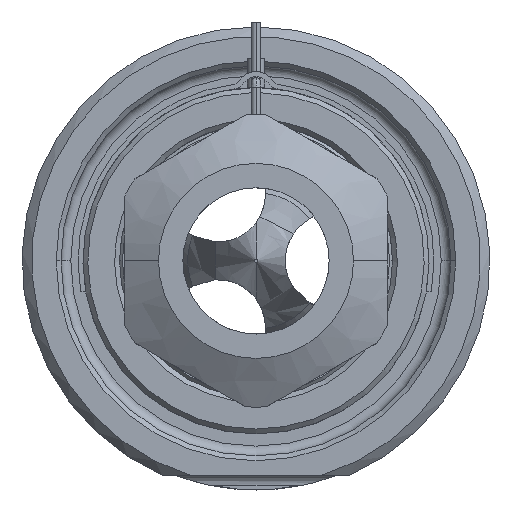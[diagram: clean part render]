
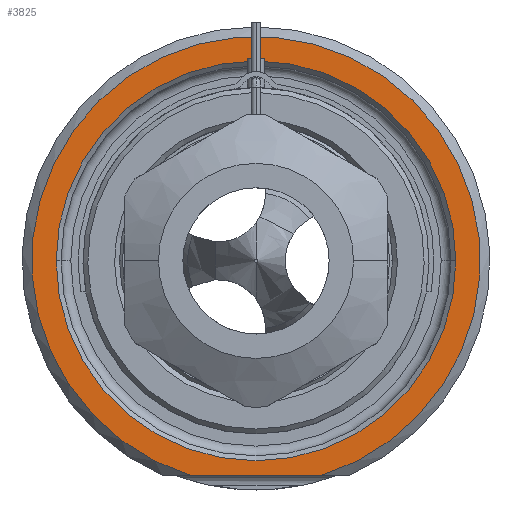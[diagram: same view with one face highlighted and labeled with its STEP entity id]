
A CAD part, front view. The second image highlights one B-rep face of the part: STEP entity #3825.
In plain terms, the highlighted planar face has unit normal (0, -1, 0).
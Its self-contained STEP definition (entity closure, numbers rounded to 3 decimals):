
#1=DIRECTION('',(1.,0.,0.));
#2=VECTOR('',#1,13.416);
#3=CARTESIAN_POINT('',(-6.708,0.,-22.));
#4=LINE('',#3,#2);
#5=CARTESIAN_POINT('',(0.,0.,0.));
#6=DIRECTION('',(0.,1.,0.));
#7=DIRECTION('',(-1.,0.,0.));
#8=AXIS2_PLACEMENT_3D('',#5,#6,#7);
#10=CARTESIAN_POINT('',(0.,0.,0.));
#11=DIRECTION('',(0.,1.,0.));
#12=DIRECTION('',(1.,0.,0.));
#13=AXIS2_PLACEMENT_3D('',#10,#11,#12);
#121=CARTESIAN_POINT('',(0.,0.,0.));
#122=DIRECTION('',(0.,-1.,0.));
#123=DIRECTION('',(0.292,0.,-0.957));
#124=AXIS2_PLACEMENT_3D('',#121,#122,#123);
#3208=CARTESIAN_POINT('',(-20.5,0.,0.));
#3209=CARTESIAN_POINT('',(20.5,0.,0.));
#3210=VERTEX_POINT('',#3208);
#3211=VERTEX_POINT('',#3209);
#3248=CARTESIAN_POINT('',(-6.708,0.,-22.));
#3249=CARTESIAN_POINT('',(6.708,0.,-22.));
#3250=VERTEX_POINT('',#3248);
#3251=VERTEX_POINT('',#3249);
#3808=CARTESIAN_POINT('',(0.,0.,0.));
#3809=DIRECTION('',(0.,-1.,0.));
#3810=DIRECTION('',(1.,0.,0.));
#3811=AXIS2_PLACEMENT_3D('',#3808,#3809,#3810);
#3812=PLANE('',#3811);
#3814=ORIENTED_EDGE('',*,*,#3813,.F.);
#3816=ORIENTED_EDGE('',*,*,#3815,.F.);
#3817=EDGE_LOOP('',(#3814,#3816));
#3818=FACE_OUTER_BOUND('',#3817,.F.);
#3820=ORIENTED_EDGE('',*,*,#3819,.F.);
#3822=ORIENTED_EDGE('',*,*,#3821,.F.);
#3823=EDGE_LOOP('',(#3820,#3822));
#3824=FACE_BOUND('',#3823,.F.);
#3825=ADVANCED_FACE('',(#3818,#3824),#3812,.T.);
#9=CIRCLE('',#8,20.5);
#14=CIRCLE('',#13,20.5);
#125=CIRCLE('',#124,23.);
#3813=EDGE_CURVE('',#3250,#3251,#4,.T.);
#3815=EDGE_CURVE('',#3251,#3250,#125,.T.);
#3819=EDGE_CURVE('',#3210,#3211,#9,.T.);
#3821=EDGE_CURVE('',#3211,#3210,#14,.T.);
